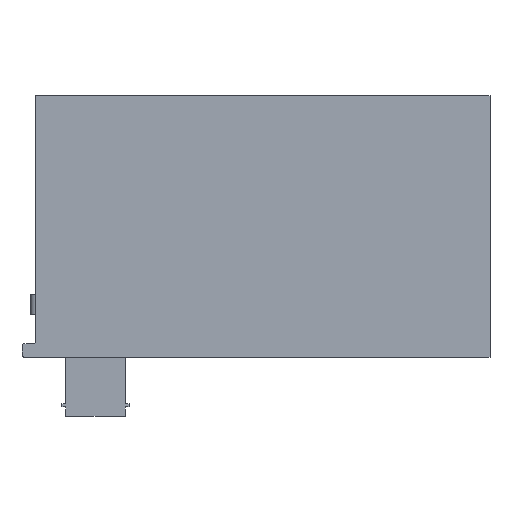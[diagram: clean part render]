
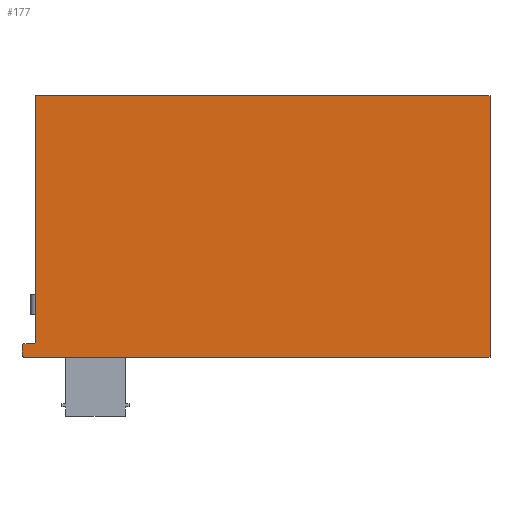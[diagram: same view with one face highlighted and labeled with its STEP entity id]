
A CAD part, top view. The second image highlights one B-rep face of the part: STEP entity #177.
In plain terms, the highlighted planar face has unit normal (0, 0, 1).
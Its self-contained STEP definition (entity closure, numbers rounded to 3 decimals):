
#21 = EDGE_CURVE('',#22,#24,#26,.T.);
#22 = VERTEX_POINT('',#23);
#23 = CARTESIAN_POINT('',(0.,-63.43,3.24));
#24 = VERTEX_POINT('',#25);
#25 = CARTESIAN_POINT('',(0.,1.23,3.24));
#26 = LINE('',#27,#28);
#27 = CARTESIAN_POINT('',(0.,-63.93,3.24));
#28 = VECTOR('',#29,1.);
#29 = DIRECTION('',(0.,1.,0.));
#177 = ADVANCED_FACE('',(#178),#246,.T.);
#178 = FACE_BOUND('',#179,.T.);
#179 = EDGE_LOOP('',(#180,#190,#198,#204,#205,#214,#222,#231,#239));
#180 = ORIENTED_EDGE('',*,*,#181,.F.);
#181 = EDGE_CURVE('',#182,#184,#186,.T.);
#182 = VERTEX_POINT('',#183);
#183 = CARTESIAN_POINT('',(119.38,-67.43,3.24));
#184 = VERTEX_POINT('',#185);
#185 = CARTESIAN_POINT('',(-3.,-67.43,3.24));
#186 = LINE('',#187,#188);
#187 = CARTESIAN_POINT('',(0.,-67.43,3.24));
#188 = VECTOR('',#189,1.);
#189 = DIRECTION('',(-1.,0.,0.));
#190 = ORIENTED_EDGE('',*,*,#191,.F.);
#191 = EDGE_CURVE('',#192,#182,#194,.T.);
#192 = VERTEX_POINT('',#193);
#193 = CARTESIAN_POINT('',(119.38,1.23,3.24));
#194 = LINE('',#195,#196);
#195 = CARTESIAN_POINT('',(119.38,1.23,3.24));
#196 = VECTOR('',#197,1.);
#197 = DIRECTION('',(0.,-1.,0.));
#198 = ORIENTED_EDGE('',*,*,#199,.F.);
#199 = EDGE_CURVE('',#24,#192,#200,.T.);
#200 = LINE('',#201,#202);
#201 = CARTESIAN_POINT('',(0.,1.23,3.24));
#202 = VECTOR('',#203,1.);
#203 = DIRECTION('',(1.,0.,0.));
#204 = ORIENTED_EDGE('',*,*,#21,.F.);
#205 = ORIENTED_EDGE('',*,*,#206,.T.);
#206 = EDGE_CURVE('',#22,#207,#209,.T.);
#207 = VERTEX_POINT('',#208);
#208 = CARTESIAN_POINT('',(-0.5,-63.93,3.24));
#209 = CIRCLE('',#210,0.5);
#210 = AXIS2_PLACEMENT_3D('',#211,#212,#213);
#211 = CARTESIAN_POINT('',(-0.5,-63.43,3.24));
#212 = DIRECTION('',(-0.,-0.,-1.));
#213 = DIRECTION('',(0.,-1.,0.));
#214 = ORIENTED_EDGE('',*,*,#215,.F.);
#215 = EDGE_CURVE('',#216,#207,#218,.T.);
#216 = VERTEX_POINT('',#217);
#217 = CARTESIAN_POINT('',(-3.,-63.93,3.24));
#218 = LINE('',#219,#220);
#219 = CARTESIAN_POINT('',(-3.5,-63.93,3.24));
#220 = VECTOR('',#221,1.);
#221 = DIRECTION('',(1.,0.,0.));
#222 = ORIENTED_EDGE('',*,*,#223,.T.);
#223 = EDGE_CURVE('',#216,#224,#226,.T.);
#224 = VERTEX_POINT('',#225);
#225 = CARTESIAN_POINT('',(-3.5,-64.43,3.24));
#226 = CIRCLE('',#227,0.5);
#227 = AXIS2_PLACEMENT_3D('',#228,#229,#230);
#228 = CARTESIAN_POINT('',(-3.,-64.43,3.24));
#229 = DIRECTION('',(-0.,0.,1.));
#230 = DIRECTION('',(0.,-1.,0.));
#231 = ORIENTED_EDGE('',*,*,#232,.F.);
#232 = EDGE_CURVE('',#233,#224,#235,.T.);
#233 = VERTEX_POINT('',#234);
#234 = CARTESIAN_POINT('',(-3.5,-66.93,3.24));
#235 = LINE('',#236,#237);
#236 = CARTESIAN_POINT('',(-3.5,-67.43,3.24));
#237 = VECTOR('',#238,1.);
#238 = DIRECTION('',(0.,1.,0.));
#239 = ORIENTED_EDGE('',*,*,#240,.T.);
#240 = EDGE_CURVE('',#233,#184,#241,.T.);
#241 = CIRCLE('',#242,0.5);
#242 = AXIS2_PLACEMENT_3D('',#243,#244,#245);
#243 = CARTESIAN_POINT('',(-3.,-66.93,3.24));
#244 = DIRECTION('',(-0.,0.,1.));
#245 = DIRECTION('',(0.,-1.,0.));
#246 = PLANE('',#247);
#247 = AXIS2_PLACEMENT_3D('',#248,#249,#250);
#248 = CARTESIAN_POINT('',(58.535,-33.695,3.24));
#249 = DIRECTION('',(0.,0.,1.));
#250 = DIRECTION('',(1.,0.,0.));
